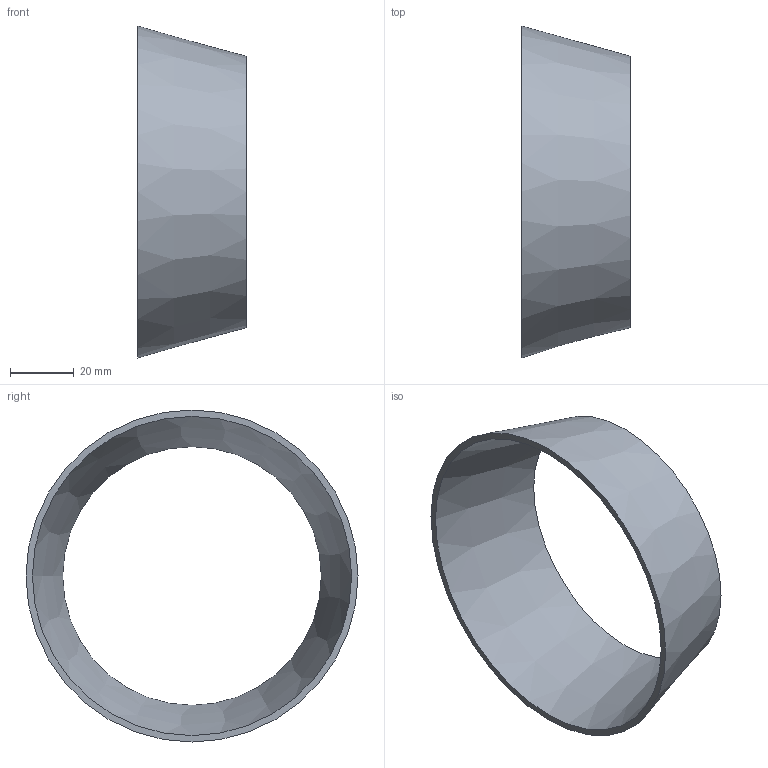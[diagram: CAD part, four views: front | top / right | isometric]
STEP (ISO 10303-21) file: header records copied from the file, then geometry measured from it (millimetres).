
FILE_DESCRIPTION(('FreeCAD Model'),'2;1');
FILE_NAME( '/home/martin/Documents/proyect/accesorios/stp/red-con_DN100-80.step', '2017-12-31T12:23:51',('Author'),(''), 'Open CASCADE STEP processor 6.8','FreeCAD','Unknown');
FILE_SCHEMA(('AUTOMOTIVE_DESIGN_CC2 { 1 2 10303 214 -1 1 5 4 }'));
Length unit declared in the file: millimetre
Products named in the file (1): red-con_DN100-80
Bounding box: 34 x 104 x 104 mm (x, y, z)
Volume: 19760.6 mm3; surface area: 21679.9 mm2
Topology: 1 solids, 1 shells, 4 faces, 6 edges, 4 vertices
Faces by surface type: cone 2, plane 2
Entity records: 191 total; most frequent: CARTESIAN_POINT 33, DIRECTION 26, ORIENTED_EDGE 12, PCURVE 12, DEFINITIONAL_REPRESENTATION 12, AXIS2_PLACEMENT_3D 9, CIRCLE 8, FACE_BOUND 6
